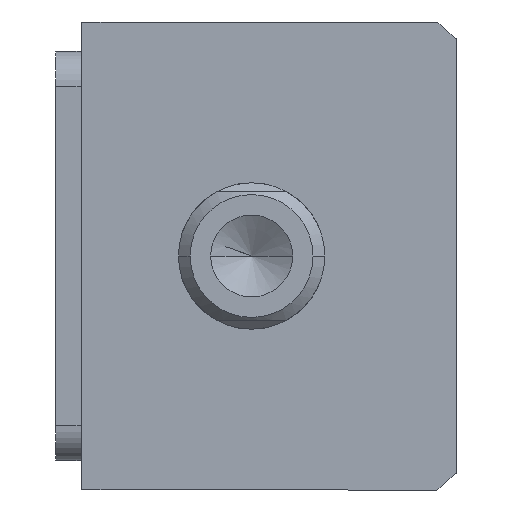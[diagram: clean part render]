
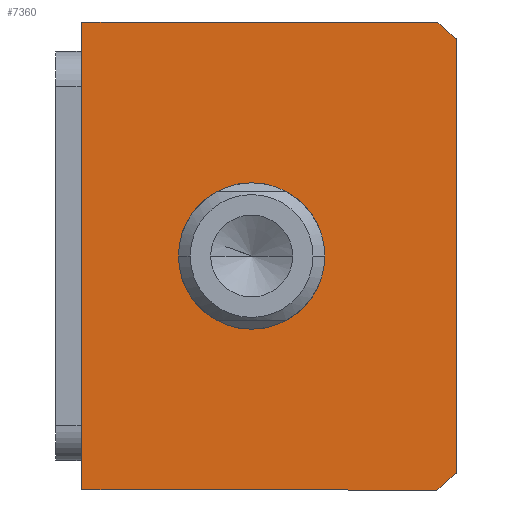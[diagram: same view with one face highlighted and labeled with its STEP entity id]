
A CAD part, front view. The second image highlights one B-rep face of the part: STEP entity #7360.
In plain terms, the highlighted planar face has unit normal (0, -1, 0) as drawn and (0, 0, -1) by its records, which use the part's own axes.
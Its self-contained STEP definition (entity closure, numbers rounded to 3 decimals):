
#139 = VERTEX_POINT ( 'NONE', #8761 ) ;
#473 = EDGE_CURVE ( 'NONE', #1047, #9128, #3928, .T. ) ;
#541 = DIRECTION ( 'NONE',  ( 0., 1., 0. ) ) ;
#638 = CIRCLE ( 'NONE', #7235, 12.5 ) ;
#726 = LINE ( 'NONE', #6334, #2947 ) ;
#764 = DIRECTION ( 'NONE',  ( 1., 0., 0. ) ) ;
#1047 = VERTEX_POINT ( 'NONE', #10450 ) ;
#1374 = ORIENTED_EDGE ( 'NONE', *, *, #6517, .F. ) ;
#1469 = AXIS2_PLACEMENT_3D ( 'NONE', #3581, #9320, #4412 ) ;
#1605 = LINE ( 'NONE', #8202, #1874 ) ;
#1778 = DIRECTION ( 'NONE',  ( 0., 0., 1. ) ) ;
#1866 = FACE_OUTER_BOUND ( 'NONE', #4684, .T. ) ;
#1874 = VECTOR ( 'NONE', #764, 1000. ) ;
#1983 = EDGE_LOOP ( 'NONE', ( #7704, #9889 ) ) ;
#2023 = CARTESIAN_POINT ( 'NONE',  ( -40., 32., 0. ) ) ;
#2121 = CARTESIAN_POINT ( 'NONE',  ( 0., 0., 0. ) ) ;
#2124 = VERTEX_POINT ( 'NONE', #8358 ) ;
#2628 = AXIS2_PLACEMENT_3D ( 'NONE', #4206, #5612, #8097 ) ;
#2947 = VECTOR ( 'NONE', #541, 1000. ) ;
#2962 = CARTESIAN_POINT ( 'NONE',  ( -40., -28.639, 0. ) ) ;
#3307 = CARTESIAN_POINT ( 'NONE',  ( 0., 3., 0. ) ) ;
#3581 = CARTESIAN_POINT ( 'NONE',  ( 0., 3., 0. ) ) ;
#3610 = VECTOR ( 'NONE', #10166, 1000. ) ;
#3928 = CIRCLE ( 'NONE', #2628, 51. ) ;
#3996 = VECTOR ( 'NONE', #4433, 1000. ) ;
#4134 = DIRECTION ( 'NONE',  ( 1., 0., 0. ) ) ;
#4206 = CARTESIAN_POINT ( 'NONE',  ( 0., 3., 0. ) ) ;
#4412 = DIRECTION ( 'NONE',  ( 1., 0., 0. ) ) ;
#4433 = DIRECTION ( 'NONE',  ( -1., 0., 0. ) ) ;
#4664 = EDGE_CURVE ( 'NONE', #5986, #10509, #5825, .T. ) ;
#4684 = EDGE_LOOP ( 'NONE', ( #5511, #5957, #5893, #6492, #5772, #1374 ) ) ;
#4686 = DIRECTION ( 'NONE',  ( 0., 0., 1. ) ) ;
#4818 = CIRCLE ( 'NONE', #1469, 51. ) ;
#5137 = EDGE_CURVE ( 'NONE', #9128, #5248, #726, .T. ) ;
#5248 = VERTEX_POINT ( 'NONE', #9836 ) ;
#5511 = ORIENTED_EDGE ( 'NONE', *, *, #7764, .F. ) ;
#5612 = DIRECTION ( 'NONE',  ( 0., 0., 1. ) ) ;
#5772 = ORIENTED_EDGE ( 'NONE', *, *, #473, .F. ) ;
#5783 = EDGE_CURVE ( 'NONE', #2124, #9585, #6971, .T. ) ;
#5825 = LINE ( 'NONE', #8500, #3610 ) ;
#5893 = ORIENTED_EDGE ( 'NONE', *, *, #9748, .F. ) ;
#5957 = ORIENTED_EDGE ( 'NONE', *, *, #4664, .F. ) ;
#5986 = VERTEX_POINT ( 'NONE', #2023 ) ;
#6308 = FACE_BOUND ( 'NONE', #1983, .T. ) ;
#6334 = CARTESIAN_POINT ( 'NONE',  ( 40., 32., 0. ) ) ;
#6492 = ORIENTED_EDGE ( 'NONE', *, *, #5137, .F. ) ;
#6517 = EDGE_CURVE ( 'NONE', #139, #1047, #1605, .T. ) ;
#6781 = CARTESIAN_POINT ( 'NONE',  ( 0., 3., 0. ) ) ;
#6971 = CIRCLE ( 'NONE', #10748, 12.5 ) ;
#7235 = AXIS2_PLACEMENT_3D ( 'NONE', #3307, #9039, #4134 ) ;
#7360 = ADVANCED_FACE ( 'NONE', ( #6308, #1866 ), #9594, .F. ) ;
#7569 = EDGE_CURVE ( 'NONE', #9585, #2124, #638, .T. ) ;
#7589 = DIRECTION ( 'NONE',  ( 1., 0., 0. ) ) ;
#7704 = ORIENTED_EDGE ( 'NONE', *, *, #5783, .T. ) ;
#7764 = EDGE_CURVE ( 'NONE', #10509, #139, #4818, .T. ) ;
#8052 = CARTESIAN_POINT ( 'NONE',  ( -12.5, 3., 0. ) ) ;
#8097 = DIRECTION ( 'NONE',  ( 1., 0., 0. ) ) ;
#8202 = CARTESIAN_POINT ( 'NONE',  ( -40., -32., 0. ) ) ;
#8358 = CARTESIAN_POINT ( 'NONE',  ( 12.5, 3., 0. ) ) ;
#8456 = CARTESIAN_POINT ( 'NONE',  ( 40., -28.639, 0. ) ) ;
#8500 = CARTESIAN_POINT ( 'NONE',  ( -40., 32., 0. ) ) ;
#8761 = CARTESIAN_POINT ( 'NONE',  ( -37.094, -32., 0. ) ) ;
#9039 = DIRECTION ( 'NONE',  ( 0., 0., 1. ) ) ;
#9128 = VERTEX_POINT ( 'NONE', #8456 ) ;
#9320 = DIRECTION ( 'NONE',  ( 0., 0., 1. ) ) ;
#9347 = CARTESIAN_POINT ( 'NONE',  ( -40., 32., 0. ) ) ;
#9585 = VERTEX_POINT ( 'NONE', #8052 ) ;
#9594 = PLANE ( 'NONE',  #10169 ) ;
#9748 = EDGE_CURVE ( 'NONE', #5248, #5986, #10311, .T. ) ;
#9836 = CARTESIAN_POINT ( 'NONE',  ( 40., 32., 0. ) ) ;
#9889 = ORIENTED_EDGE ( 'NONE', *, *, #7569, .T. ) ;
#10166 = DIRECTION ( 'NONE',  ( 0., -1., 0. ) ) ;
#10169 = AXIS2_PLACEMENT_3D ( 'NONE', #2121, #4686, #10432 ) ;
#10311 = LINE ( 'NONE', #9347, #3996 ) ;
#10432 = DIRECTION ( 'NONE',  ( 1., 0., 0. ) ) ;
#10450 = CARTESIAN_POINT ( 'NONE',  ( 37.094, -32., 0. ) ) ;
#10509 = VERTEX_POINT ( 'NONE', #2962 ) ;
#10748 = AXIS2_PLACEMENT_3D ( 'NONE', #6781, #1778, #7589 ) ;
